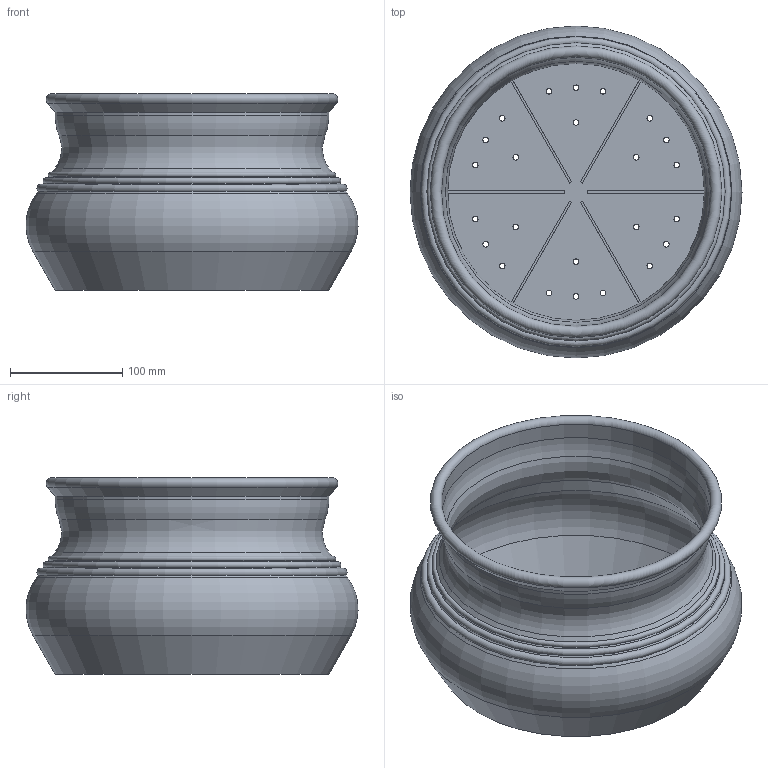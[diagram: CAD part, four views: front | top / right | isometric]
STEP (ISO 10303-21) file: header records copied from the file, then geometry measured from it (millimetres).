
FILE_DESCRIPTION(/* description */ (''),/* implementation_level */ '2;1');
FILE_NAME(/* name */ 'LR2406-S20-H175-D300_step.step',/* time_stamp */ '2024-02-01T11:01:27+01:00',/* author */ (''),/* organization */ (''),/* preprocessor_version */ 'ST-DEVELOPER v20',/* originating_system */ 'Autodesk Translation Framework v12.20.1.177',/* authorisation */ '');
FILE_SCHEMA (('AUTOMOTIVE_DESIGN { 1 0 10303 214 3 1 1 }'));
Length unit declared in the file: millimetre
Products named in the file (1): LR2406-S20-H175-D300
Bounding box: 295.97 x 295.97 x 175 mm (x, y, z)
Volume: 493357 mm3; surface area: 422104.9 mm2
Topology: 1 solids, 1 shells, 70 faces, 185 edges, 117 vertices
Faces by surface type: cylinder 32, plane 20, torus 10, cone 8
Full cylindrical faces by diameter (mm): 5 x24, 240 x1, 244 x1
Entity records: 2336 total; most frequent: DIRECTION 430, CARTESIAN_POINT 373, ORIENTED_EDGE 370, EDGE_CURVE 185, AXIS2_PLACEMENT_3D 174, EDGE_LOOP 118, VERTEX_POINT 117, CIRCLE 103
